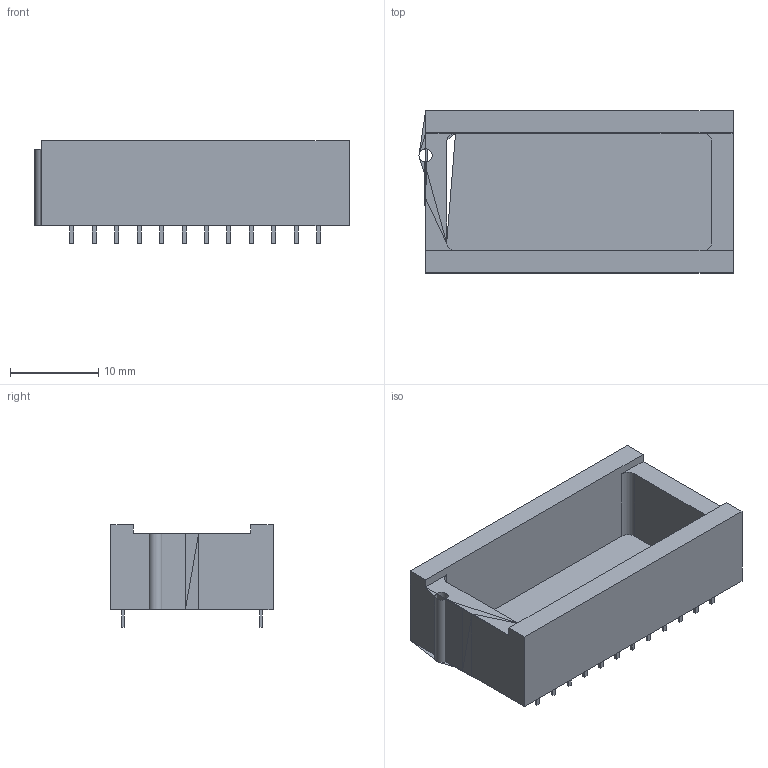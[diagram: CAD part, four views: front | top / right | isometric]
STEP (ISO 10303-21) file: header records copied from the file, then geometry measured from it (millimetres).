
FILE_DESCRIPTION (( 'STEP AP214' ), '1' );
FILE_NAME ( 'DIPS1562W45P254L3480H965Q24.STEP', '2021-10-06T06:48:58', ( '' ), ( '' ), '', '©2017 PCB Libraries, Inc.', '' );
FILE_SCHEMA (( 'AUTOMOTIVE_DESIGN' ));
Length unit declared in the file: millimetre
Products named in the file (1): DIPS1562W45P254L3480H965Q24
Bounding box: 35.55 x 18.34 x 11.65 mm (x, y, z)
Volume: 3611.8 mm3; surface area: 3178.2 mm2
Topology: 25 solids, 25 shells, 163 faces, 346 edges, 230 vertices
Faces by surface type: plane 158, cylinder 5
Full cylindrical faces by diameter (mm): 1.5 x1
Entity records: 4983 total; most frequent: CARTESIAN_POINT 734, ORIENTED_EDGE 684, DIRECTION 680, EDGE_CURVE 342, VECTOR 332, LINE 332, VERTEX_POINT 228, STYLED_ITEM 189
